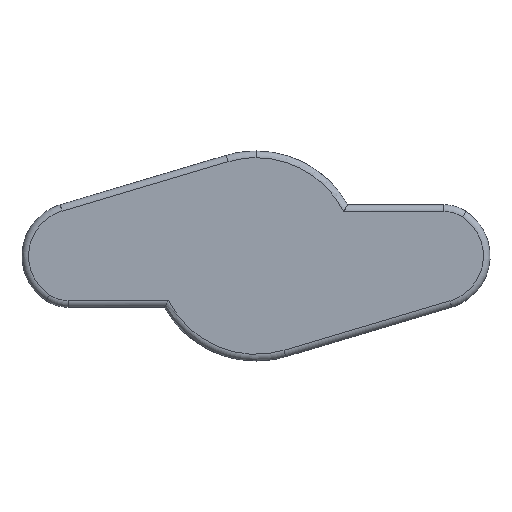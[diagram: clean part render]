
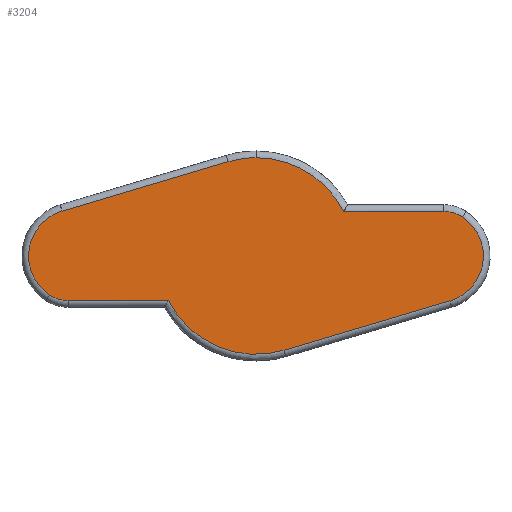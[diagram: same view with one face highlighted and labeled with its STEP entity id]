
A CAD part, front view. The second image highlights one B-rep face of the part: STEP entity #3204.
In plain terms, the highlighted planar face has unit normal (0, -1, 0).
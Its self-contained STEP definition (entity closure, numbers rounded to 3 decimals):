
#16 = DIRECTION ( 'NONE',  ( 0., -1., 0. ) ) ;
#131 = EDGE_CURVE ( 'NONE', #500, #2586, #681, .T. ) ;
#162 = LINE ( 'NONE', #1432, #2798 ) ;
#163 = CARTESIAN_POINT ( 'NONE',  ( 2.096, 0., -7.045 ) ) ;
#169 = AXIS2_PLACEMENT_3D ( 'NONE', #2285, #775, #2544 ) ;
#215 = DIRECTION ( 'NONE',  ( -1., 0., 0. ) ) ;
#338 = ORIENTED_EDGE ( 'NONE', *, *, #1025, .T. ) ;
#367 = CIRCLE ( 'NONE', #1894, 3.5 ) ;
#378 = DIRECTION ( 'NONE',  ( 1., 0., 0. ) ) ;
#385 = CARTESIAN_POINT ( 'NONE',  ( -14.498, 0., 3.355 ) ) ;
#433 = LINE ( 'NONE', #2253, #1790 ) ;
#500 = VERTEX_POINT ( 'NONE', #2779 ) ;
#568 = CARTESIAN_POINT ( 'NONE',  ( 14.498, 0., -3.355 ) ) ;
#600 = CARTESIAN_POINT ( 'NONE',  ( 6.55, 0., 3.334 ) ) ;
#610 = DIRECTION ( 'NONE',  ( 0., 0., 1. ) ) ;
#630 = ORIENTED_EDGE ( 'NONE', *, *, #772, .T. ) ;
#681 = CIRCLE ( 'NONE', #2539, 7.35 ) ;
#695 = ORIENTED_EDGE ( 'NONE', *, *, #2892, .T. ) ;
#701 = CARTESIAN_POINT ( 'NONE',  ( 14.052, 0., 0.834 ) ) ;
#722 = VERTEX_POINT ( 'NONE', #2922 ) ;
#767 = VERTEX_POINT ( 'NONE', #385 ) ;
#772 = EDGE_CURVE ( 'NONE', #2586, #767, #162, .T. ) ;
#775 = DIRECTION ( 'NONE',  ( 0., -1., 0. ) ) ;
#875 = CARTESIAN_POINT ( 'NONE',  ( -14.052, 0., -0.834 ) ) ;
#899 = EDGE_CURVE ( 'NONE', #1823, #500, #2637, .T. ) ;
#926 = ORIENTED_EDGE ( 'NONE', *, *, #964, .T. ) ;
#950 = AXIS2_PLACEMENT_3D ( 'NONE', #1561, #16, #1801 ) ;
#964 = EDGE_CURVE ( 'NONE', #1286, #1823, #433, .T. ) ;
#966 = DIRECTION ( 'NONE',  ( 0., 0., 1. ) ) ;
#968 = VERTEX_POINT ( 'NONE', #2513 ) ;
#1025 = EDGE_CURVE ( 'NONE', #767, #722, #1643, .T. ) ;
#1084 = CARTESIAN_POINT ( 'NONE',  ( 13.5, 0., 0. ) ) ;
#1092 = ORIENTED_EDGE ( 'NONE', *, *, #2069, .T. ) ;
#1101 = PLANE ( 'NONE',  #2917 ) ;
#1110 = AXIS2_PLACEMENT_3D ( 'NONE', #2993, #1477, #3243 ) ;
#1143 = DIRECTION ( 'NONE',  ( 0., 0., 1. ) ) ;
#1174 = ORIENTED_EDGE ( 'NONE', *, *, #899, .T. ) ;
#1216 = ORIENTED_EDGE ( 'NONE', *, *, #2721, .T. ) ;
#1268 = ORIENTED_EDGE ( 'NONE', *, *, #131, .T. ) ;
#1274 = CIRCLE ( 'NONE', #950, 7.35 ) ;
#1286 = VERTEX_POINT ( 'NONE', #2406 ) ;
#1343 = DIRECTION ( 'NONE',  ( 0., 0., 1. ) ) ;
#1352 = DIRECTION ( 'NONE',  ( 0., 0., 1. ) ) ;
#1432 = CARTESIAN_POINT ( 'NONE',  ( -2.096, 0., 7.045 ) ) ;
#1477 = DIRECTION ( 'NONE',  ( 0., -1., 0. ) ) ;
#1492 = DIRECTION ( 'NONE',  ( 0.958, 0., 0.285 ) ) ;
#1505 = CARTESIAN_POINT ( 'NONE',  ( 15.432, 0., 2.919 ) ) ;
#1508 = LINE ( 'NONE', #163, #2088 ) ;
#1548 = AXIS2_PLACEMENT_3D ( 'NONE', #875, #2657, #1143 ) ;
#1561 = CARTESIAN_POINT ( 'NONE',  ( 0., 0., 0. ) ) ;
#1575 = FACE_OUTER_BOUND ( 'NONE', #2716, .T. ) ;
#1643 = CIRCLE ( 'NONE', #169, 3.5 ) ;
#1653 = VERTEX_POINT ( 'NONE', #2813 ) ;
#1663 = CARTESIAN_POINT ( 'NONE',  ( 0., 0., -3.334 ) ) ;
#1700 = CIRCLE ( 'NONE', #1965, 2.5 ) ;
#1782 = LINE ( 'NONE', #1663, #2298 ) ;
#1790 = VECTOR ( 'NONE', #215, 1000. ) ;
#1801 = DIRECTION ( 'NONE',  ( 0., 0., 1. ) ) ;
#1823 = VERTEX_POINT ( 'NONE', #600 ) ;
#1866 = CIRCLE ( 'NONE', #1548, 2.5 ) ;
#1894 = AXIS2_PLACEMENT_3D ( 'NONE', #1084, #2849, #1343 ) ;
#1965 = AXIS2_PLACEMENT_3D ( 'NONE', #701, #2483, #966 ) ;
#2069 = EDGE_CURVE ( 'NONE', #722, #2242, #1866, .T. ) ;
#2074 = ORIENTED_EDGE ( 'NONE', *, *, #3170, .T. ) ;
#2088 = VECTOR ( 'NONE', #1492, 1000. ) ;
#2093 = CARTESIAN_POINT ( 'NONE',  ( 0., 0., 0. ) ) ;
#2144 = EDGE_CURVE ( 'NONE', #2242, #968, #1782, .T. ) ;
#2242 = VERTEX_POINT ( 'NONE', #3222 ) ;
#2253 = CARTESIAN_POINT ( 'NONE',  ( 0., 0., 3.334 ) ) ;
#2285 = CARTESIAN_POINT ( 'NONE',  ( -13.5, 0., 0. ) ) ;
#2298 = VECTOR ( 'NONE', #378, 1000. ) ;
#2306 = VERTEX_POINT ( 'NONE', #1505 ) ;
#2353 = CARTESIAN_POINT ( 'NONE',  ( -2.096, 0., 7.045 ) ) ;
#2387 = CARTESIAN_POINT ( 'NONE',  ( 0., 0., 0. ) ) ;
#2406 = CARTESIAN_POINT ( 'NONE',  ( 14.052, 0., 3.334 ) ) ;
#2483 = DIRECTION ( 'NONE',  ( 0., -1., 0. ) ) ;
#2513 = CARTESIAN_POINT ( 'NONE',  ( -6.55, 0., -3.334 ) ) ;
#2539 = AXIS2_PLACEMENT_3D ( 'NONE', #2387, #3205, #610 ) ;
#2544 = DIRECTION ( 'NONE',  ( 0., 0., 1. ) ) ;
#2562 = VERTEX_POINT ( 'NONE', #568 ) ;
#2586 = VERTEX_POINT ( 'NONE', #2353 ) ;
#2637 = CIRCLE ( 'NONE', #1110, 7.35 ) ;
#2657 = DIRECTION ( 'NONE',  ( 0., -1., 0. ) ) ;
#2660 = ORIENTED_EDGE ( 'NONE', *, *, #2144, .T. ) ;
#2687 = DIRECTION ( 'NONE',  ( -0.958, 0., -0.285 ) ) ;
#2716 = EDGE_LOOP ( 'NONE', ( #2807, #1216, #2074, #695, #926, #1174, #1268, #630, #338, #1092, #2660 ) ) ;
#2721 = EDGE_CURVE ( 'NONE', #1653, #2562, #1508, .T. ) ;
#2778 = EDGE_CURVE ( 'NONE', #968, #1653, #1274, .T. ) ;
#2779 = CARTESIAN_POINT ( 'NONE',  ( 0., 0., 7.35 ) ) ;
#2798 = VECTOR ( 'NONE', #2687, 1000. ) ;
#2807 = ORIENTED_EDGE ( 'NONE', *, *, #2778, .T. ) ;
#2813 = CARTESIAN_POINT ( 'NONE',  ( 2.096, 0., -7.045 ) ) ;
#2849 = DIRECTION ( 'NONE',  ( 0., -1., 0. ) ) ;
#2860 = DIRECTION ( 'NONE',  ( 0., 1., 0. ) ) ;
#2892 = EDGE_CURVE ( 'NONE', #2306, #1286, #1700, .T. ) ;
#2917 = AXIS2_PLACEMENT_3D ( 'NONE', #2093, #2860, #1352 ) ;
#2922 = CARTESIAN_POINT ( 'NONE',  ( -15.432, 0., -2.919 ) ) ;
#2993 = CARTESIAN_POINT ( 'NONE',  ( 0., 0., 0. ) ) ;
#3170 = EDGE_CURVE ( 'NONE', #2562, #2306, #367, .T. ) ;
#3204 = ADVANCED_FACE ( 'NONE', ( #1575 ), #1101, .F. ) ;
#3205 = DIRECTION ( 'NONE',  ( 0., -1., 0. ) ) ;
#3222 = CARTESIAN_POINT ( 'NONE',  ( -14.052, 0., -3.334 ) ) ;
#3243 = DIRECTION ( 'NONE',  ( 0., 0., 1. ) ) ;
